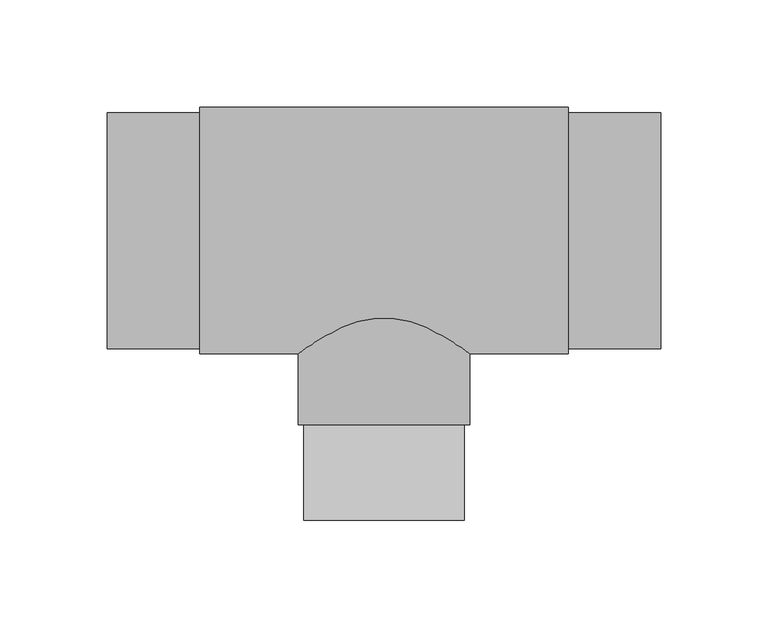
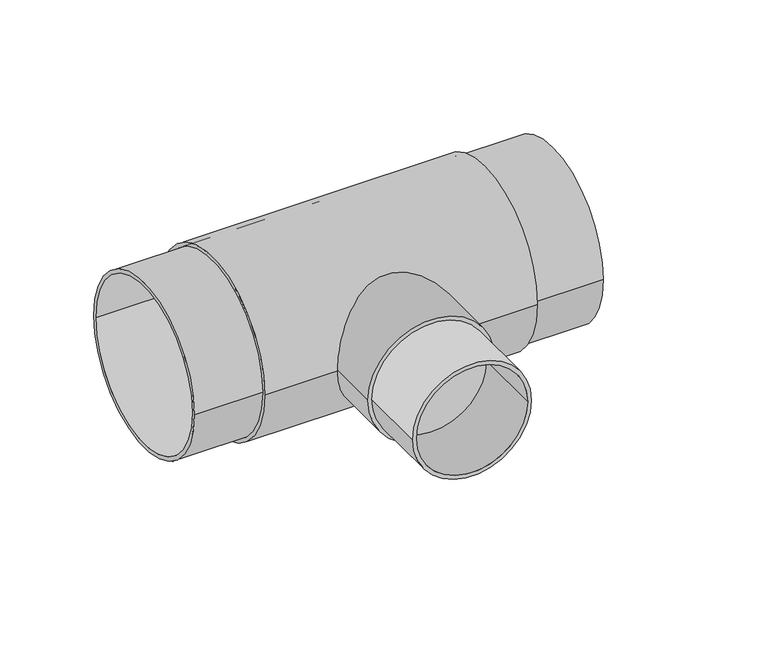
"""IFC4 building model written with IfcOpenShell, lengths in millimetres: pipe fitting geometry, EGB_VASEN_ PPR_Te a tope WXRB300_Te reducida a tope WXRB310 : Te a tope."""

from ifc_helpers import new_model, si_unit, point, frame, origin, origin_2d, place, context, project, spatial, circle_curve, trimmed, segment, composite_curve, outline, extrude, source, transform, mapped, element, save


def pipe_fitting_b1a1f153(model_context):
    return source(origin(), model_context, "Body", "SweptSolid", [
        extrude(outline(composite_curve([segment(trimmed(circle_curve(origin_2d(), 37.5), [point((0.0, 37.5))], [point((0.0, -37.5))], False, "CARTESIAN"), True, "CONTINUOUS"), segment(trimmed(circle_curve(origin_2d(), 37.5), [point((0.0, -37.5))], [point((0.0, 37.5))], False, "CARTESIAN"), True, "CONTINUOUS")], self_intersect=False), holes=[composite_curve([segment(trimmed(circle_curve(origin_2d(), 35.0), [point((0.0, 35.0))], [point((0.0, -35.0))], True, "CARTESIAN"), True, "CONTINUOUS"), segment(trimmed(circle_curve(origin_2d(), 35.0), [point((0.0, -35.0))], [point((0.0, 35.0))], True, "CARTESIAN"), True, "CONTINUOUS")], self_intersect=False)]), frame((0.0, -135.0, 0.0), z_axis=(0.0, 1.0, 0.0), x_axis=(0.0, 0.0, 1.0)), (0.0, 0.0, 1.0), 44.5),
        extrude(outline(composite_curve([segment(trimmed(circle_curve(origin_2d(), 40.0), [point((0.0, 40.0))], [point((0.0, -40.0))], False, "CARTESIAN"), True, "CONTINUOUS"), segment(trimmed(circle_curve(origin_2d(), 40.0), [point((0.0, -40.0))], [point((0.0, 40.0))], False, "CARTESIAN"), True, "CONTINUOUS")], self_intersect=False)), frame((0.0, -90.5, 0.0), z_axis=(0.0, 1.0, 0.0), x_axis=(0.0, 0.0, 1.0)), (0.0, 0.0, 1.0), 90.5),
        extrude(outline(composite_curve([segment(trimmed(circle_curve(origin_2d(), 57.5), [point((-57.5, 0.0))], [point((57.5, 0.0))], False, "CARTESIAN"), True, "CONTINUOUS"), segment(trimmed(circle_curve(origin_2d(), 57.5), [point((57.5, 0.0))], [point((-57.5, 0.0))], False, "CARTESIAN"), True, "CONTINUOUS")], self_intersect=False), holes=[composite_curve([segment(trimmed(circle_curve(origin_2d(), 55.0), [point((-55.0, 0.0))], [point((55.0, 0.0))], True, "CARTESIAN"), True, "CONTINUOUS"), segment(trimmed(circle_curve(origin_2d(), 55.0), [point((55.0, 0.0))], [point((-55.0, 0.0))], True, "CARTESIAN"), True, "CONTINUOUS")], self_intersect=False)]), frame((-86.0, 0.0, 0.0), z_axis=(1.0, 0.0, 0.0), x_axis=(0.0, 1.0, 0.0)), (0.0, 0.0, 1.0), 172.0),
        extrude(outline(composite_curve([segment(trimmed(circle_curve(origin_2d(), 55.0), [point((-55.0, 0.0))], [point((55.0, 0.0))], False, "CARTESIAN"), True, "CONTINUOUS"), segment(trimmed(circle_curve(origin_2d(), 55.0), [point((55.0, 0.0))], [point((-55.0, 0.0))], False, "CARTESIAN"), True, "CONTINUOUS")], self_intersect=False), holes=[composite_curve([segment(trimmed(circle_curve(origin_2d(), 52.5), [point((-52.5, 0.0))], [point((52.5, 0.0))], True, "CARTESIAN"), True, "CONTINUOUS"), segment(trimmed(circle_curve(origin_2d(), 52.5), [point((52.5, 0.0))], [point((-52.5, 0.0))], True, "CARTESIAN"), True, "CONTINUOUS")], self_intersect=False)]), frame((-129.0, 0.0, 0.0), z_axis=(1.0, 0.0, 0.0), x_axis=(0.0, 1.0, 0.0)), (0.0, 0.0, 1.0), 258.0),
    ])


if __name__ == "__main__":
    model = new_model("IFC4")
    model_context = context("Model", 3, world=origin())
    ifc_project = project(units=[si_unit("LENGTHUNIT", "METRE", prefix="MILLI")], contexts=[model_context])
    site = spatial("IfcSite", under=ifc_project)
    building = spatial("IfcBuilding", under=site)
    placement = place(None, origin())
    pipe_fitting_shape = pipe_fitting_b1a1f153(model_context)
    element("IfcPipeFitting", 1, ObjectType="EGB_VASEN_ PPR_Te a tope WXRB300_Te reducida a tope WXRB310 : Te a tope", at=placement, inside=building, context=model_context, shape_type="MappedRepresentation", body=[
        mapped(pipe_fitting_shape, transform((0.0, 0.0, 0.0), x_axis=(1.0, 0.0, 0.0), y_axis=(0.0, 1.0, 0.0), z_axis=(0.0, 0.0, 1.0))),
    ])
    save(model, "model.ifc")
